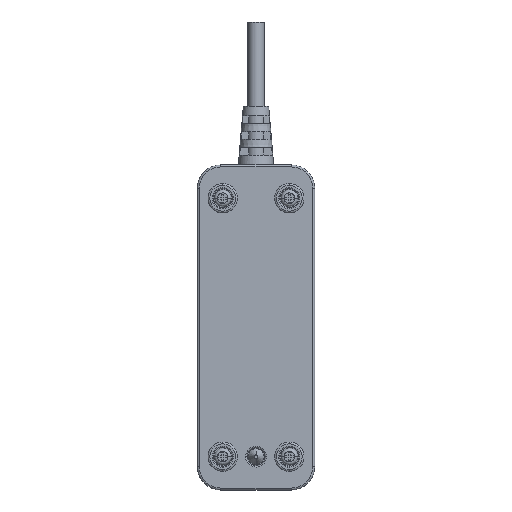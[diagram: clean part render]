
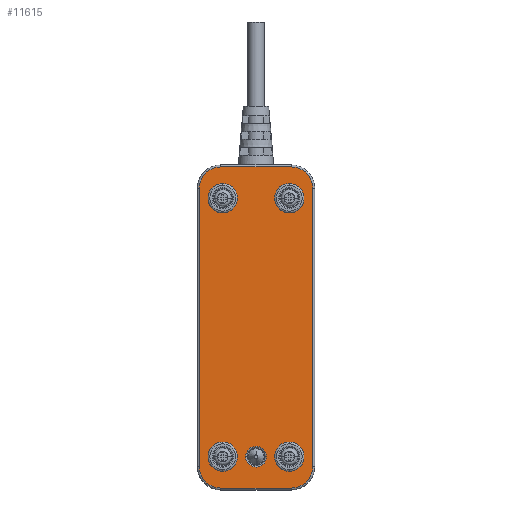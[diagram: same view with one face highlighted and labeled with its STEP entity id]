
A CAD part, front view. The second image highlights one B-rep face of the part: STEP entity #11615.
In plain terms, the highlighted planar face has unit normal (0, -1, 0).
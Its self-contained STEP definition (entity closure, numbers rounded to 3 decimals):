
#1199=DIRECTION('',(1.,0.,0.));
#1200=VECTOR('',#1199,18.);
#1201=CARTESIAN_POINT('',(-9.,0.,-41.));
#1202=LINE('',#1201,#1200);
#1229=DIRECTION('',(0.,0.,-1.));
#1230=VECTOR('',#1229,71.);
#1231=CARTESIAN_POINT('',(-14.5,0.,35.5));
#1232=LINE('',#1231,#1230);
#1273=DIRECTION('',(-1.,0.,0.));
#1274=VECTOR('',#1273,18.);
#1275=CARTESIAN_POINT('',(9.,0.,41.));
#1276=LINE('',#1275,#1274);
#1282=CARTESIAN_POINT('',(-9.,0.,-35.5));
#1283=DIRECTION('',(0.,1.,0.));
#1284=DIRECTION('',(0.,0.,-1.));
#1285=AXIS2_PLACEMENT_3D('',#1282,#1283,#1284);
#1287=CARTESIAN_POINT('',(-9.,0.,35.5));
#1288=DIRECTION('',(0.,1.,0.));
#1289=DIRECTION('',(-1.,0.,0.));
#1290=AXIS2_PLACEMENT_3D('',#1287,#1288,#1289);
#1292=CARTESIAN_POINT('',(9.,0.,35.5));
#1293=DIRECTION('',(0.,1.,0.));
#1294=DIRECTION('',(0.,0.,1.));
#1295=AXIS2_PLACEMENT_3D('',#1292,#1293,#1294);
#1297=DIRECTION('',(0.,0.,-1.));
#1298=VECTOR('',#1297,71.);
#1299=CARTESIAN_POINT('',(14.5,0.,35.5));
#1300=LINE('',#1299,#1298);
#1301=CARTESIAN_POINT('',(9.,0.,-35.5));
#1302=DIRECTION('',(0.,1.,0.));
#1303=DIRECTION('',(1.,0.,0.));
#1304=AXIS2_PLACEMENT_3D('',#1301,#1302,#1303);
#1306=CARTESIAN_POINT('',(8.5,0.,-33.));
#1307=DIRECTION('',(0.,-1.,0.));
#1308=DIRECTION('',(0.,0.,-1.));
#1309=AXIS2_PLACEMENT_3D('',#1306,#1307,#1308);
#1311=CARTESIAN_POINT('',(8.5,0.,-33.));
#1312=DIRECTION('',(0.,-1.,0.));
#1313=DIRECTION('',(0.,0.,1.));
#1314=AXIS2_PLACEMENT_3D('',#1311,#1312,#1313);
#1316=CARTESIAN_POINT('',(-8.5,0.,-33.));
#1317=DIRECTION('',(0.,-1.,0.));
#1318=DIRECTION('',(0.,0.,-1.));
#1319=AXIS2_PLACEMENT_3D('',#1316,#1317,#1318);
#1321=CARTESIAN_POINT('',(-8.5,0.,-33.));
#1322=DIRECTION('',(0.,-1.,0.));
#1323=DIRECTION('',(0.,0.,1.));
#1324=AXIS2_PLACEMENT_3D('',#1321,#1322,#1323);
#1326=CARTESIAN_POINT('',(-8.5,0.,33.));
#1327=DIRECTION('',(0.,-1.,0.));
#1328=DIRECTION('',(0.,0.,-1.));
#1329=AXIS2_PLACEMENT_3D('',#1326,#1327,#1328);
#1331=CARTESIAN_POINT('',(-8.5,0.,33.));
#1332=DIRECTION('',(0.,-1.,0.));
#1333=DIRECTION('',(0.,0.,1.));
#1334=AXIS2_PLACEMENT_3D('',#1331,#1332,#1333);
#1336=CARTESIAN_POINT('',(8.5,0.,33.));
#1337=DIRECTION('',(0.,-1.,0.));
#1338=DIRECTION('',(0.,0.,-1.));
#1339=AXIS2_PLACEMENT_3D('',#1336,#1337,#1338);
#1341=CARTESIAN_POINT('',(8.5,0.,33.));
#1342=DIRECTION('',(0.,-1.,0.));
#1343=DIRECTION('',(0.,0.,1.));
#1344=AXIS2_PLACEMENT_3D('',#1341,#1342,#1343);
#1346=CARTESIAN_POINT('',(0.,0.,-33.));
#1347=DIRECTION('',(0.,-1.,0.));
#1348=DIRECTION('',(1.,0.,0.));
#1349=AXIS2_PLACEMENT_3D('',#1346,#1347,#1348);
#1351=CARTESIAN_POINT('',(0.,0.,-33.));
#1352=DIRECTION('',(0.,-1.,0.));
#1353=DIRECTION('',(0.998,0.,0.069));
#1354=AXIS2_PLACEMENT_3D('',#1351,#1352,#1353);
#1356=CARTESIAN_POINT('',(0.,0.,-33.));
#1357=DIRECTION('',(0.,-1.,0.));
#1358=DIRECTION('',(-1.,0.,0.));
#1359=AXIS2_PLACEMENT_3D('',#1356,#1357,#1358);
#1361=CARTESIAN_POINT('',(0.,0.,-33.));
#1362=DIRECTION('',(0.,-1.,0.));
#1363=DIRECTION('',(-0.998,0.,-0.069));
#1364=AXIS2_PLACEMENT_3D('',#1361,#1362,#1363);
#9142=CARTESIAN_POINT('',(14.5,0.,35.5));
#9143=CARTESIAN_POINT('',(14.5,0.,-35.5));
#9144=VERTEX_POINT('',#9142);
#9145=VERTEX_POINT('',#9143);
#9148=CARTESIAN_POINT('',(9.,0.,-41.));
#9149=VERTEX_POINT('',#9148);
#9383=CARTESIAN_POINT('',(9.,0.,41.));
#9384=VERTEX_POINT('',#9383);
#9385=CARTESIAN_POINT('',(-9.,0.,-41.));
#9386=CARTESIAN_POINT('',(-14.5,0.,-35.5));
#9387=VERTEX_POINT('',#9385);
#9388=VERTEX_POINT('',#9386);
#9389=CARTESIAN_POINT('',(-14.5,0.,35.5));
#9390=CARTESIAN_POINT('',(-9.,0.,41.));
#9391=VERTEX_POINT('',#9389);
#9392=VERTEX_POINT('',#9390);
#9393=CARTESIAN_POINT('',(8.499,0.,
-36.75));
#9394=CARTESIAN_POINT('',(8.501,0.,
-29.25));
#9395=VERTEX_POINT('',#9393);
#9396=VERTEX_POINT('',#9394);
#9397=CARTESIAN_POINT('',(-8.501,0.,
-36.75));
#9398=CARTESIAN_POINT('',(-8.499,0.,
-29.25));
#9399=VERTEX_POINT('',#9397);
#9400=VERTEX_POINT('',#9398);
#9401=CARTESIAN_POINT('',(-8.501,0.,
29.25));
#9402=CARTESIAN_POINT('',(-8.499,0.,
36.75));
#9403=VERTEX_POINT('',#9401);
#9404=VERTEX_POINT('',#9402);
#9405=CARTESIAN_POINT('',(8.499,0.,
29.25));
#9406=CARTESIAN_POINT('',(8.501,0.,
36.75));
#9407=VERTEX_POINT('',#9405);
#9408=VERTEX_POINT('',#9406);
#9409=CARTESIAN_POINT('',(2.636,0.,-33.));
#9410=CARTESIAN_POINT('',(2.629,0.,
-32.819));
#9411=VERTEX_POINT('',#9409);
#9412=VERTEX_POINT('',#9410);
#9413=CARTESIAN_POINT('',(-2.636,0.,-33.));
#9414=VERTEX_POINT('',#9413);
#9415=CARTESIAN_POINT('',(-2.629,0.,
-33.181));
#9416=VERTEX_POINT('',#9415);
#11566=CARTESIAN_POINT('',(0.,0.,0.));
#11567=DIRECTION('',(0.,1.,0.));
#11568=DIRECTION('',(0.,0.,1.));
#11569=AXIS2_PLACEMENT_3D('',#11566,#11567,#11568);
#11570=PLANE('',#11569);
#11571=ORIENTED_EDGE('',*,*,#11492,.T.);
#11572=ORIENTED_EDGE('',*,*,#11507,.F.);
#11573=ORIENTED_EDGE('',*,*,#11547,.T.);
#11574=ORIENTED_EDGE('',*,*,#11560,.F.);
#11575=ORIENTED_EDGE('',*,*,#11379,.T.);
#11576=ORIENTED_EDGE('',*,*,#11395,.T.);
#11577=ORIENTED_EDGE('',*,*,#11436,.T.);
#11578=ORIENTED_EDGE('',*,*,#11451,.F.);
#11579=EDGE_LOOP('',(#11571,#11572,#11573,#11574,#11575,#11576,#11577,#11578));
#11580=FACE_OUTER_BOUND('',#11579,.F.);
#11582=ORIENTED_EDGE('',*,*,#11581,.T.);
#11584=ORIENTED_EDGE('',*,*,#11583,.T.);
#11585=EDGE_LOOP('',(#11582,#11584));
#11586=FACE_BOUND('',#11585,.F.);
#11588=ORIENTED_EDGE('',*,*,#11587,.T.);
#11590=ORIENTED_EDGE('',*,*,#11589,.T.);
#11591=EDGE_LOOP('',(#11588,#11590));
#11592=FACE_BOUND('',#11591,.F.);
#11594=ORIENTED_EDGE('',*,*,#11593,.T.);
#11596=ORIENTED_EDGE('',*,*,#11595,.T.);
#11597=EDGE_LOOP('',(#11594,#11596));
#11598=FACE_BOUND('',#11597,.F.);
#11600=ORIENTED_EDGE('',*,*,#11599,.T.);
#11602=ORIENTED_EDGE('',*,*,#11601,.T.);
#11603=EDGE_LOOP('',(#11600,#11602));
#11604=FACE_BOUND('',#11603,.F.);
#11606=ORIENTED_EDGE('',*,*,#11605,.T.);
#11608=ORIENTED_EDGE('',*,*,#11607,.T.);
#11610=ORIENTED_EDGE('',*,*,#11609,.T.);
#11612=ORIENTED_EDGE('',*,*,#11611,.T.);
#11613=EDGE_LOOP('',(#11606,#11608,#11610,#11612));
#11614=FACE_BOUND('',#11613,.F.);
#11615=ADVANCED_FACE('',(#11580,#11586,#11592,#11598,#11604,#11614),#11570,.F.);
#1286=CIRCLE('',#1285,5.5);
#1291=CIRCLE('',#1290,5.5);
#1296=CIRCLE('',#1295,5.5);
#1305=CIRCLE('',#1304,5.5);
#1310=CIRCLE('',#1309,3.75);
#1315=CIRCLE('',#1314,3.75);
#1320=CIRCLE('',#1319,3.75);
#1325=CIRCLE('',#1324,3.75);
#1330=CIRCLE('',#1329,3.75);
#1335=CIRCLE('',#1334,3.75);
#1340=CIRCLE('',#1339,3.75);
#1345=CIRCLE('',#1344,3.75);
#1350=CIRCLE('',#1349,2.636);
#1355=CIRCLE('',#1354,2.636);
#1360=CIRCLE('',#1359,2.636);
#1365=CIRCLE('',#1364,2.636);
#11379=EDGE_CURVE('',#9384,#9144,#1296,.T.);
#11395=EDGE_CURVE('',#9144,#9145,#1300,.T.);
#11436=EDGE_CURVE('',#9145,#9149,#1305,.T.);
#11451=EDGE_CURVE('',#9387,#9149,#1202,.T.);
#11492=EDGE_CURVE('',#9387,#9388,#1286,.T.);
#11507=EDGE_CURVE('',#9391,#9388,#1232,.T.);
#11547=EDGE_CURVE('',#9391,#9392,#1291,.T.);
#11560=EDGE_CURVE('',#9384,#9392,#1276,.T.);
#11581=EDGE_CURVE('',#9395,#9396,#1310,.T.);
#11583=EDGE_CURVE('',#9396,#9395,#1315,.T.);
#11587=EDGE_CURVE('',#9399,#9400,#1320,.T.);
#11589=EDGE_CURVE('',#9400,#9399,#1325,.T.);
#11593=EDGE_CURVE('',#9403,#9404,#1330,.T.);
#11595=EDGE_CURVE('',#9404,#9403,#1335,.T.);
#11599=EDGE_CURVE('',#9407,#9408,#1340,.T.);
#11601=EDGE_CURVE('',#9408,#9407,#1345,.T.);
#11605=EDGE_CURVE('',#9411,#9412,#1350,.T.);
#11607=EDGE_CURVE('',#9412,#9414,#1355,.T.);
#11609=EDGE_CURVE('',#9414,#9416,#1360,.T.);
#11611=EDGE_CURVE('',#9416,#9411,#1365,.T.);
